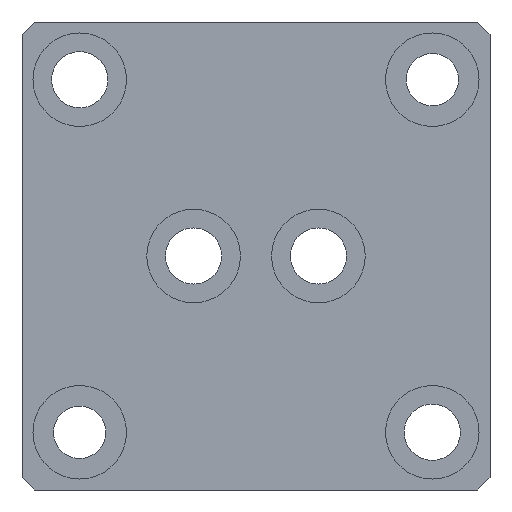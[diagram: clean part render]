
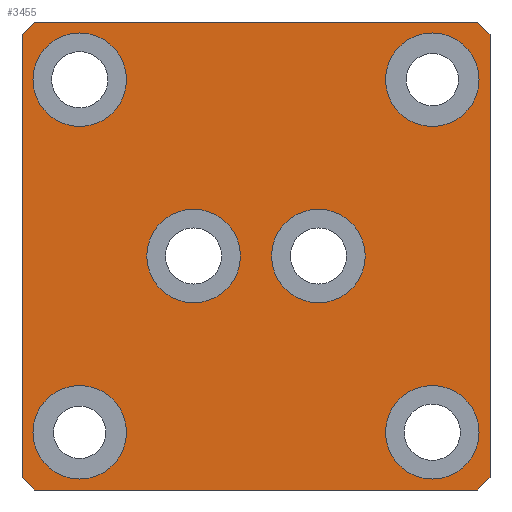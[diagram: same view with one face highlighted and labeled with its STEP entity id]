
A CAD part, front view. The second image highlights one B-rep face of the part: STEP entity #3455.
In plain terms, the highlighted planar face has unit normal (0, -1, 0).
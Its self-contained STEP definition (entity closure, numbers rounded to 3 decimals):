
#36=CIRCLE('',#3555,7.5);
#37=CIRCLE('',#3556,7.5);
#41=CIRCLE('',#3563,7.5);
#42=CIRCLE('',#3564,7.5);
#46=CIRCLE('',#3571,7.5);
#47=CIRCLE('',#3572,7.5);
#51=CIRCLE('',#3579,7.5);
#52=CIRCLE('',#3580,7.5);
#56=CIRCLE('',#3587,7.5);
#57=CIRCLE('',#3588,7.5);
#61=CIRCLE('',#3595,7.5);
#62=CIRCLE('',#3596,7.5);
#91=FACE_BOUND('',#583,.T.);
#92=FACE_BOUND('',#584,.T.);
#93=FACE_BOUND('',#585,.T.);
#94=FACE_BOUND('',#586,.T.);
#95=FACE_BOUND('',#587,.T.);
#96=FACE_BOUND('',#588,.T.);
#180=PLANE('',#3607);
#367=FACE_OUTER_BOUND('',#582,.T.);
#582=EDGE_LOOP('',(#3158,#3159,#3160,#3161,#3162,#3163,#3164,#3165));
#583=EDGE_LOOP('',(#3166,#3167));
#584=EDGE_LOOP('',(#3168,#3169));
#585=EDGE_LOOP('',(#3170,#3171));
#586=EDGE_LOOP('',(#3172,#3173));
#587=EDGE_LOOP('',(#3174,#3175));
#588=EDGE_LOOP('',(#3176,#3177));
#857=LINE('',#6337,#1140);
#860=LINE('',#6342,#1143);
#862=LINE('',#6348,#1145);
#864=LINE('',#6352,#1147);
#866=LINE('',#6356,#1149);
#869=LINE('',#6361,#1152);
#870=LINE('',#6363,#1153);
#871=LINE('',#6365,#1154);
#1140=VECTOR('',#4124,10.);
#1143=VECTOR('',#4129,10.);
#1145=VECTOR('',#4135,10.);
#1147=VECTOR('',#4139,10.);
#1149=VECTOR('',#4143,10.);
#1152=VECTOR('',#4148,10.);
#1153=VECTOR('',#4151,10.);
#1154=VECTOR('',#4154,10.);
#1640=VERTEX_POINT('',#6251);
#1641=VERTEX_POINT('',#6252);
#1645=VERTEX_POINT('',#6266);
#1646=VERTEX_POINT('',#6267);
#1650=VERTEX_POINT('',#6281);
#1651=VERTEX_POINT('',#6282);
#1655=VERTEX_POINT('',#6296);
#1656=VERTEX_POINT('',#6297);
#1660=VERTEX_POINT('',#6311);
#1661=VERTEX_POINT('',#6312);
#1665=VERTEX_POINT('',#6326);
#1666=VERTEX_POINT('',#6327);
#1667=VERTEX_POINT('',#6334);
#1668=VERTEX_POINT('',#6336);
#1669=VERTEX_POINT('',#6340);
#1670=VERTEX_POINT('',#6345);
#1671=VERTEX_POINT('',#6347);
#1672=VERTEX_POINT('',#6351);
#1673=VERTEX_POINT('',#6355);
#1674=VERTEX_POINT('',#6359);
#2121=EDGE_CURVE('',#1640,#1641,#36,.T.);
#2122=EDGE_CURVE('',#1641,#1640,#37,.T.);
#2128=EDGE_CURVE('',#1645,#1646,#41,.T.);
#2129=EDGE_CURVE('',#1646,#1645,#42,.T.);
#2135=EDGE_CURVE('',#1650,#1651,#46,.T.);
#2136=EDGE_CURVE('',#1651,#1650,#47,.T.);
#2142=EDGE_CURVE('',#1655,#1656,#51,.T.);
#2143=EDGE_CURVE('',#1656,#1655,#52,.T.);
#2149=EDGE_CURVE('',#1660,#1661,#56,.T.);
#2150=EDGE_CURVE('',#1661,#1660,#57,.T.);
#2156=EDGE_CURVE('',#1665,#1666,#61,.T.);
#2157=EDGE_CURVE('',#1666,#1665,#62,.T.);
#2161=EDGE_CURVE('',#1667,#1668,#857,.T.);
#2164=EDGE_CURVE('',#1667,#1669,#860,.T.);
#2166=EDGE_CURVE('',#1670,#1671,#862,.T.);
#2168=EDGE_CURVE('',#1672,#1671,#864,.T.);
#2170=EDGE_CURVE('',#1672,#1673,#866,.T.);
#2173=EDGE_CURVE('',#1674,#1669,#869,.T.);
#2174=EDGE_CURVE('',#1674,#1673,#870,.T.);
#2175=EDGE_CURVE('',#1670,#1668,#871,.T.);
#3158=ORIENTED_EDGE('',*,*,#2161,.F.);
#3159=ORIENTED_EDGE('',*,*,#2164,.T.);
#3160=ORIENTED_EDGE('',*,*,#2173,.F.);
#3161=ORIENTED_EDGE('',*,*,#2174,.T.);
#3162=ORIENTED_EDGE('',*,*,#2170,.F.);
#3163=ORIENTED_EDGE('',*,*,#2168,.T.);
#3164=ORIENTED_EDGE('',*,*,#2166,.F.);
#3165=ORIENTED_EDGE('',*,*,#2175,.T.);
#3166=ORIENTED_EDGE('',*,*,#2121,.T.);
#3167=ORIENTED_EDGE('',*,*,#2122,.T.);
#3168=ORIENTED_EDGE('',*,*,#2128,.T.);
#3169=ORIENTED_EDGE('',*,*,#2129,.T.);
#3170=ORIENTED_EDGE('',*,*,#2135,.T.);
#3171=ORIENTED_EDGE('',*,*,#2136,.T.);
#3172=ORIENTED_EDGE('',*,*,#2142,.T.);
#3173=ORIENTED_EDGE('',*,*,#2143,.T.);
#3174=ORIENTED_EDGE('',*,*,#2149,.T.);
#3175=ORIENTED_EDGE('',*,*,#2150,.T.);
#3176=ORIENTED_EDGE('',*,*,#2156,.T.);
#3177=ORIENTED_EDGE('',*,*,#2157,.T.);
#3455=ADVANCED_FACE('',(#367,#91,#92,#93,#94,#95,#96),#180,.F.);
#3555=AXIS2_PLACEMENT_3D('',#6253,#4023,#4024);
#3556=AXIS2_PLACEMENT_3D('',#6254,#4025,#4026);
#3563=AXIS2_PLACEMENT_3D('',#6268,#4041,#4042);
#3564=AXIS2_PLACEMENT_3D('',#6269,#4043,#4044);
#3571=AXIS2_PLACEMENT_3D('',#6283,#4059,#4060);
#3572=AXIS2_PLACEMENT_3D('',#6284,#4061,#4062);
#3579=AXIS2_PLACEMENT_3D('',#6298,#4077,#4078);
#3580=AXIS2_PLACEMENT_3D('',#6299,#4079,#4080);
#3587=AXIS2_PLACEMENT_3D('',#6313,#4095,#4096);
#3588=AXIS2_PLACEMENT_3D('',#6314,#4097,#4098);
#3595=AXIS2_PLACEMENT_3D('',#6328,#4113,#4114);
#3596=AXIS2_PLACEMENT_3D('',#6329,#4115,#4116);
#3607=AXIS2_PLACEMENT_3D('',#6366,#4155,#4156);
#4023=DIRECTION('center_axis',(0.,1.,0.));
#4024=DIRECTION('ref_axis',(-1.,0.,0.));
#4025=DIRECTION('center_axis',(0.,1.,0.));
#4026=DIRECTION('ref_axis',(-1.,0.,0.));
#4041=DIRECTION('center_axis',(0.,1.,0.));
#4042=DIRECTION('ref_axis',(-1.,0.,0.));
#4043=DIRECTION('center_axis',(0.,1.,0.));
#4044=DIRECTION('ref_axis',(-1.,0.,0.));
#4059=DIRECTION('center_axis',(0.,1.,0.));
#4060=DIRECTION('ref_axis',(-1.,0.,0.));
#4061=DIRECTION('center_axis',(0.,1.,0.));
#4062=DIRECTION('ref_axis',(-1.,0.,0.));
#4077=DIRECTION('center_axis',(0.,1.,0.));
#4078=DIRECTION('ref_axis',(-1.,0.,0.));
#4079=DIRECTION('center_axis',(0.,1.,0.));
#4080=DIRECTION('ref_axis',(-1.,0.,0.));
#4095=DIRECTION('center_axis',(0.,1.,0.));
#4096=DIRECTION('ref_axis',(-1.,0.,0.));
#4097=DIRECTION('center_axis',(0.,1.,0.));
#4098=DIRECTION('ref_axis',(-1.,0.,0.));
#4113=DIRECTION('center_axis',(0.,1.,0.));
#4114=DIRECTION('ref_axis',(-1.,0.,0.));
#4115=DIRECTION('center_axis',(0.,1.,0.));
#4116=DIRECTION('ref_axis',(-1.,0.,0.));
#4124=DIRECTION('',(0.707,0.,-0.707));
#4129=DIRECTION('',(-1.,0.,0.));
#4135=DIRECTION('',(-0.707,0.,-0.707));
#4139=DIRECTION('',(1.,0.,0.));
#4143=DIRECTION('',(-0.707,0.,0.707));
#4148=DIRECTION('',(0.707,0.,0.707));
#4151=DIRECTION('',(0.,0.,-1.));
#4154=DIRECTION('',(0.,0.,1.));
#4155=DIRECTION('center_axis',(0.,1.,0.));
#4156=DIRECTION('ref_axis',(0.,0.,1.));
#6251=CARTESIAN_POINT('',(-16.75,0.,-65.75));
#6252=CARTESIAN_POINT('',(-1.75,0.,-65.75));
#6253=CARTESIAN_POINT('Origin',(-9.25,0.,-65.75));
#6254=CARTESIAN_POINT('Origin',(-9.25,0.,-65.75));
#6266=CARTESIAN_POINT('',(-73.25,0.,-9.25));
#6267=CARTESIAN_POINT('',(-58.25,0.,-9.25));
#6268=CARTESIAN_POINT('Origin',(-65.75,0.,-9.25));
#6269=CARTESIAN_POINT('Origin',(-65.75,0.,-9.25));
#6281=CARTESIAN_POINT('',(-73.25,0.,-65.75));
#6282=CARTESIAN_POINT('',(-58.25,0.,-65.75));
#6283=CARTESIAN_POINT('Origin',(-65.75,0.,-65.75));
#6284=CARTESIAN_POINT('Origin',(-65.75,0.,-65.75));
#6296=CARTESIAN_POINT('',(-16.75,0.,-9.25));
#6297=CARTESIAN_POINT('',(-1.75,0.,-9.25));
#6298=CARTESIAN_POINT('Origin',(-9.25,0.,-9.25));
#6299=CARTESIAN_POINT('Origin',(-9.25,0.,-9.25));
#6311=CARTESIAN_POINT('',(-55.,0.,-37.5));
#6312=CARTESIAN_POINT('',(-40.,0.,-37.5));
#6313=CARTESIAN_POINT('Origin',(-47.5,0.,-37.5));
#6314=CARTESIAN_POINT('Origin',(-47.5,0.,-37.5));
#6326=CARTESIAN_POINT('',(-35.,0.,-37.5));
#6327=CARTESIAN_POINT('',(-20.,0.,-37.5));
#6328=CARTESIAN_POINT('Origin',(-27.5,0.,-37.5));
#6329=CARTESIAN_POINT('Origin',(-27.5,0.,-37.5));
#6334=CARTESIAN_POINT('',(-2.,0.,0.));
#6336=CARTESIAN_POINT('',(0.,0.,-2.));
#6337=CARTESIAN_POINT('',(-1.,0.,-1.));
#6340=CARTESIAN_POINT('',(-73.,0.,0.));
#6342=CARTESIAN_POINT('',(0.,0.,0.));
#6345=CARTESIAN_POINT('',(0.,0.,-73.));
#6347=CARTESIAN_POINT('',(-2.,0.,-75.));
#6348=CARTESIAN_POINT('',(-1.,0.,-74.));
#6351=CARTESIAN_POINT('',(-73.,0.,-75.));
#6352=CARTESIAN_POINT('',(-75.,0.,-75.));
#6355=CARTESIAN_POINT('',(-75.,0.,-73.));
#6356=CARTESIAN_POINT('',(-74.,0.,-74.));
#6359=CARTESIAN_POINT('',(-75.,0.,-2.));
#6361=CARTESIAN_POINT('',(-74.,0.,-1.));
#6363=CARTESIAN_POINT('',(-75.,0.,0.));
#6365=CARTESIAN_POINT('',(0.,0.,-75.));
#6366=CARTESIAN_POINT('Origin',(-37.5,0.,-37.5));
